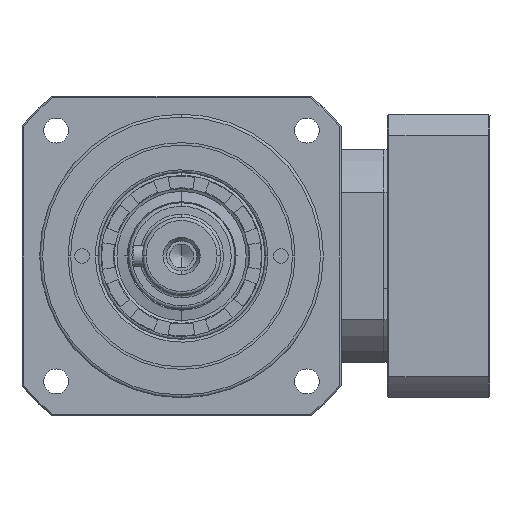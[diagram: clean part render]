
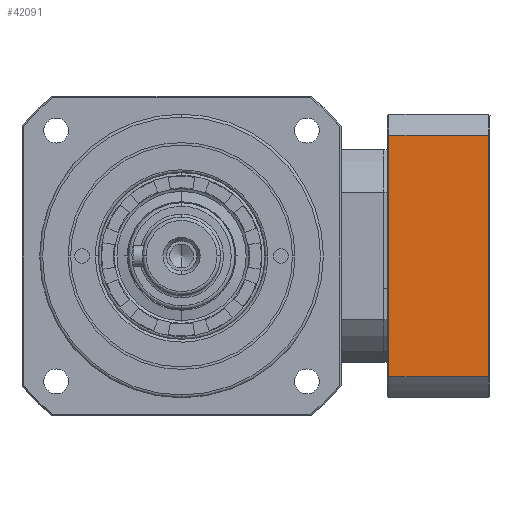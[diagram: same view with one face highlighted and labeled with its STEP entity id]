
A CAD part, left-side view. The second image highlights one B-rep face of the part: STEP entity #42091.
In plain terms, the highlighted planar face has unit normal (-1, 0, 0).
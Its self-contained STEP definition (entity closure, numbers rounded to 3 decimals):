
#464 = CARTESIAN_POINT ( 'NONE',  ( 20.367, -79.693, 90. ) ) ;
#2946 = LINE ( 'NONE', #9021, #11628 ) ;
#4978 = ORIENTED_EDGE ( 'NONE', *, *, #13422, .T. ) ;
#9021 = CARTESIAN_POINT ( 'NONE',  ( 20.367, -65.693, 124.004 ) ) ;
#11372 = ORIENTED_EDGE ( 'NONE', *, *, #34654, .T. ) ;
#11628 = VECTOR ( 'NONE', #35443, 1000. ) ;
#13422 = EDGE_CURVE ( 'NONE', #80462, #14711, #79367, .T. ) ;
#13878 = PLANE ( 'NONE',  #74349 ) ;
#14605 = EDGE_CURVE ( 'NONE', #14711, #69111, #2946, .T. ) ;
#14711 = VERTEX_POINT ( 'NONE', #39722 ) ;
#15541 = EDGE_LOOP ( 'NONE', ( #4978, #69663, #11372, #41122 ) ) ;
#16971 = VECTOR ( 'NONE', #44542, 1000. ) ;
#25434 = DIRECTION ( 'NONE',  ( 0., -1., 0. ) ) ;
#26883 = DIRECTION ( 'NONE',  ( 0., 0., 1. ) ) ;
#30296 = EDGE_CURVE ( 'NONE', #73053, #80462, #84880, .T. ) ;
#34654 = EDGE_CURVE ( 'NONE', #69111, #73053, #84020, .T. ) ;
#35425 = CARTESIAN_POINT ( 'NONE',  ( 20.367, -51.693, 124.004 ) ) ;
#35443 = DIRECTION ( 'NONE',  ( 0., 1., 0. ) ) ;
#39212 = VECTOR ( 'NONE', #25434, 1000. ) ;
#39722 = CARTESIAN_POINT ( 'NONE',  ( 20.367, -79.693, 124.004 ) ) ;
#41122 = ORIENTED_EDGE ( 'NONE', *, *, #30296, .T. ) ;
#42091 = ADVANCED_FACE ( 'NONE', ( #46847 ), #13878, .T. ) ;
#44542 = DIRECTION ( 'NONE',  ( 0., 0., -1. ) ) ;
#46847 = FACE_OUTER_BOUND ( 'NONE', #15541, .T. ) ;
#47699 = DIRECTION ( 'NONE',  ( 0., 0., 1. ) ) ;
#51526 = CARTESIAN_POINT ( 'NONE',  ( 20.367, -65.693, 55.996 ) ) ;
#55070 = DIRECTION ( 'NONE',  ( -1., 0., 0. ) ) ;
#59109 = VECTOR ( 'NONE', #26883, 1000. ) ;
#61506 = CARTESIAN_POINT ( 'NONE',  ( 20.367, -79.693, 55.996 ) ) ;
#65489 = CARTESIAN_POINT ( 'NONE',  ( 20.367, -79.693, 55.996 ) ) ;
#69111 = VERTEX_POINT ( 'NONE', #35425 ) ;
#69663 = ORIENTED_EDGE ( 'NONE', *, *, #14605, .T. ) ;
#71492 = CARTESIAN_POINT ( 'NONE',  ( 20.367, -51.693, 55.996 ) ) ;
#71845 = CARTESIAN_POINT ( 'NONE',  ( 20.367, -51.693, 90. ) ) ;
#73053 = VERTEX_POINT ( 'NONE', #71492 ) ;
#74349 = AXIS2_PLACEMENT_3D ( 'NONE', #65489, #55070, #47699 ) ;
#79367 = LINE ( 'NONE', #464, #59109 ) ;
#80462 = VERTEX_POINT ( 'NONE', #61506 ) ;
#84020 = LINE ( 'NONE', #71845, #16971 ) ;
#84880 = LINE ( 'NONE', #51526, #39212 ) ;
